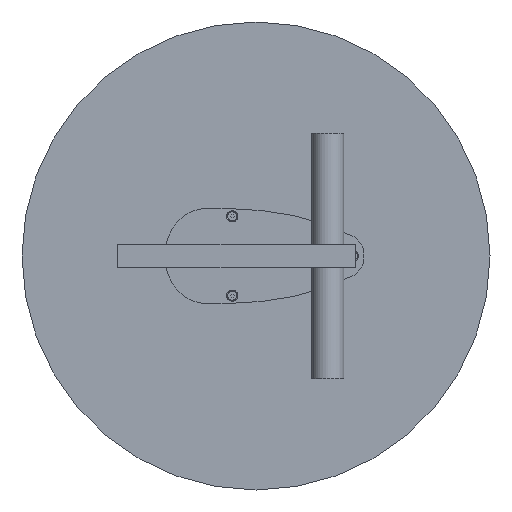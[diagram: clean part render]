
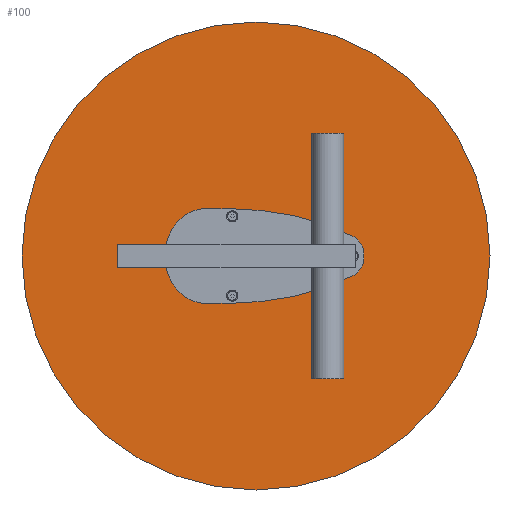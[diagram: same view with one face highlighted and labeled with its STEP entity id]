
A CAD part, front view. The second image highlights one B-rep face of the part: STEP entity #100.
In plain terms, the highlighted planar face has unit normal (0, -1, 0).
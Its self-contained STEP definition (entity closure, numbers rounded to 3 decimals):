
#34 = AXIS2_PLACEMENT_3D ( 'NONE', #866, #1525, #2445 ) ;
#81 = EDGE_CURVE ( 'NONE', #632, #1683, #2236, .T. ) ;
#100 = ADVANCED_FACE ( 'NONE', ( #1710, #1016, #293, #409 ), #1273, .F. ) ;
#283 = EDGE_CURVE ( 'NONE', #687, #1613, #1058, .T. ) ;
#293 = FACE_BOUND ( 'NONE', #2025, .T. ) ;
#308 = EDGE_LOOP ( 'NONE', ( #1711, #792 ) ) ;
#344 = DIRECTION ( 'NONE',  ( 0., 0., 1. ) ) ;
#383 = CARTESIAN_POINT ( 'NONE',  ( 0., 0., -295. ) ) ;
#409 = FACE_OUTER_BOUND ( 'NONE', #308, .T. ) ;
#419 = VERTEX_POINT ( 'NONE', #1486 ) ;
#446 = VERTEX_POINT ( 'NONE', #1460 ) ;
#464 = VERTEX_POINT ( 'NONE', #1691 ) ;
#498 = DIRECTION ( 'NONE',  ( 0., 1., 0. ) ) ;
#534 = CARTESIAN_POINT ( 'NONE',  ( 0., 0., 0. ) ) ;
#572 = DIRECTION ( 'NONE',  ( 0., 1., 0. ) ) ;
#584 = CARTESIAN_POINT ( 'NONE',  ( 0., 0., 0. ) ) ;
#595 = EDGE_LOOP ( 'NONE', ( #2320, #2894 ) ) ;
#632 = VERTEX_POINT ( 'NONE', #859 ) ;
#648 = CIRCLE ( 'NONE', #1995, 4. ) ;
#656 = CIRCLE ( 'NONE', #2922, 4. ) ;
#687 = VERTEX_POINT ( 'NONE', #383 ) ;
#717 = EDGE_CURVE ( 'NONE', #464, #2647, #956, .T. ) ;
#727 = ORIENTED_EDGE ( 'NONE', *, *, #2104, .F. ) ;
#792 = ORIENTED_EDGE ( 'NONE', *, *, #283, .F. ) ;
#859 = CARTESIAN_POINT ( 'NONE',  ( 30., 0., -46. ) ) ;
#866 = CARTESIAN_POINT ( 'NONE',  ( 30., 0., 50. ) ) ;
#876 = CIRCLE ( 'NONE', #1340, 295. ) ;
#880 = EDGE_LOOP ( 'NONE', ( #916, #727 ) ) ;
#916 = ORIENTED_EDGE ( 'NONE', *, *, #2606, .F. ) ;
#923 = CARTESIAN_POINT ( 'NONE',  ( 30., 0., -50. ) ) ;
#956 = CIRCLE ( 'NONE', #2802, 4. ) ;
#1016 = FACE_BOUND ( 'NONE', #595, .T. ) ;
#1058 = CIRCLE ( 'NONE', #1886, 295. ) ;
#1109 = AXIS2_PLACEMENT_3D ( 'NONE', #1261, #2608, #1250 ) ;
#1193 = DIRECTION ( 'NONE',  ( 0., -1., 0. ) ) ;
#1207 = CARTESIAN_POINT ( 'NONE',  ( -122., 0., 0. ) ) ;
#1250 = DIRECTION ( 'NONE',  ( 0., 0., -1. ) ) ;
#1261 = CARTESIAN_POINT ( 'NONE',  ( 30., 0., -50. ) ) ;
#1273 = PLANE ( 'NONE',  #1634 ) ;
#1323 = DIRECTION ( 'NONE',  ( 0., 0., -1. ) ) ;
#1340 = AXIS2_PLACEMENT_3D ( 'NONE', #1432, #498, #2560 ) ;
#1359 = CARTESIAN_POINT ( 'NONE',  ( 30., 0., 50. ) ) ;
#1432 = CARTESIAN_POINT ( 'NONE',  ( 0., 0., 0. ) ) ;
#1460 = CARTESIAN_POINT ( 'NONE',  ( 30., 0., 54. ) ) ;
#1477 = CIRCLE ( 'NONE', #2102, 4. ) ;
#1486 = CARTESIAN_POINT ( 'NONE',  ( 30., 0., 46. ) ) ;
#1525 = DIRECTION ( 'NONE',  ( 0., -1., 0. ) ) ;
#1613 = VERTEX_POINT ( 'NONE', #2385 ) ;
#1634 = AXIS2_PLACEMENT_3D ( 'NONE', #534, #572, #2849 ) ;
#1677 = DIRECTION ( 'NONE',  ( 0., 0., -1. ) ) ;
#1683 = VERTEX_POINT ( 'NONE', #1686 ) ;
#1686 = CARTESIAN_POINT ( 'NONE',  ( 30., 0., -54. ) ) ;
#1691 = CARTESIAN_POINT ( 'NONE',  ( -122., 0., -4. ) ) ;
#1710 = FACE_BOUND ( 'NONE', #880, .T. ) ;
#1711 = ORIENTED_EDGE ( 'NONE', *, *, #1749, .F. ) ;
#1749 = EDGE_CURVE ( 'NONE', #1613, #687, #876, .T. ) ;
#1759 = EDGE_CURVE ( 'NONE', #2647, #464, #656, .T. ) ;
#1886 = AXIS2_PLACEMENT_3D ( 'NONE', #584, #2171, #344 ) ;
#1995 = AXIS2_PLACEMENT_3D ( 'NONE', #923, #2531, #2753 ) ;
#2011 = DIRECTION ( 'NONE',  ( 0., -1., 0. ) ) ;
#2025 = EDGE_LOOP ( 'NONE', ( #2843, #2477 ) ) ;
#2102 = AXIS2_PLACEMENT_3D ( 'NONE', #1359, #2707, #2671 ) ;
#2104 = EDGE_CURVE ( 'NONE', #446, #419, #1477, .T. ) ;
#2171 = DIRECTION ( 'NONE',  ( 0., 1., 0. ) ) ;
#2236 = CIRCLE ( 'NONE', #1109, 4. ) ;
#2256 = CIRCLE ( 'NONE', #34, 4. ) ;
#2320 = ORIENTED_EDGE ( 'NONE', *, *, #2906, .F. ) ;
#2385 = CARTESIAN_POINT ( 'NONE',  ( 0., 0., 295. ) ) ;
#2444 = CARTESIAN_POINT ( 'NONE',  ( -122., 0., 0. ) ) ;
#2445 = DIRECTION ( 'NONE',  ( 0., 0., -1. ) ) ;
#2477 = ORIENTED_EDGE ( 'NONE', *, *, #1759, .F. ) ;
#2531 = DIRECTION ( 'NONE',  ( 0., -1., 0. ) ) ;
#2560 = DIRECTION ( 'NONE',  ( 0., 0., 1. ) ) ;
#2606 = EDGE_CURVE ( 'NONE', #419, #446, #2256, .T. ) ;
#2608 = DIRECTION ( 'NONE',  ( 0., -1., 0. ) ) ;
#2647 = VERTEX_POINT ( 'NONE', #2715 ) ;
#2671 = DIRECTION ( 'NONE',  ( 0., 0., -1. ) ) ;
#2707 = DIRECTION ( 'NONE',  ( 0., -1., 0. ) ) ;
#2715 = CARTESIAN_POINT ( 'NONE',  ( -122., 0., 4. ) ) ;
#2753 = DIRECTION ( 'NONE',  ( 0., 0., -1. ) ) ;
#2802 = AXIS2_PLACEMENT_3D ( 'NONE', #2444, #2011, #1323 ) ;
#2843 = ORIENTED_EDGE ( 'NONE', *, *, #717, .F. ) ;
#2849 = DIRECTION ( 'NONE',  ( 0., 0., 1. ) ) ;
#2894 = ORIENTED_EDGE ( 'NONE', *, *, #81, .F. ) ;
#2906 = EDGE_CURVE ( 'NONE', #1683, #632, #648, .T. ) ;
#2922 = AXIS2_PLACEMENT_3D ( 'NONE', #1207, #1193, #1677 ) ;
